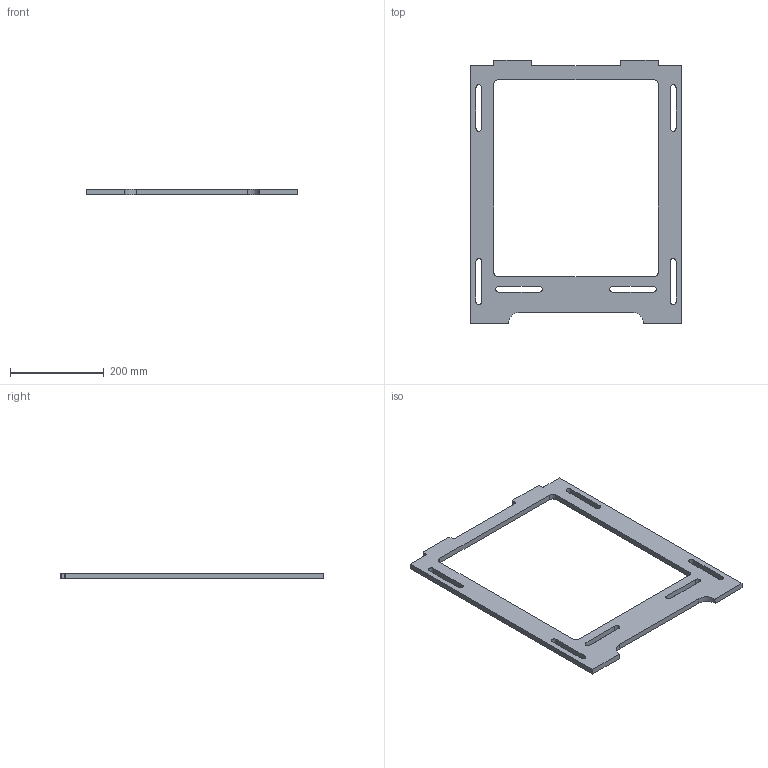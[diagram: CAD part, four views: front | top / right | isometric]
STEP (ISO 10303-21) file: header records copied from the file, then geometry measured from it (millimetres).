
FILE_DESCRIPTION(/* description */ (''),/* implementation_level */ '2;1');
FILE_NAME(/* name */ 'E:\panel2.stp',/* time_stamp */ '2015-03-19T21:39:50+08:00',/* author */ ('s41632'),/* organization */ (''),/* preprocessor_version */ 'ST-DEVELOPER v15.2',/* originating_system */ 'Autodesk Inventor 2014',/* authorisation */ '');
FILE_SCHEMA (('AUTOMOTIVE_DESIGN { 1 0 10303 214 3 1 1 }'));
Length unit declared in the file: millimetre
Products named in the file (1): panel2
Bounding box: 450 x 562 x 12 mm (x, y, z)
Volume: 1063066.5 mm3; surface area: 235509.6 mm2
Topology: 1 solids, 1 shells, 58 faces, 168 edges, 112 vertices
Faces by surface type: plane 36, cylinder 22
Entity records: 1968 total; most frequent: CARTESIAN_POINT 339, ORIENTED_EDGE 336, DIRECTION 330, EDGE_CURVE 168, LINE 124, VECTOR 124, VERTEX_POINT 112, AXIS2_PLACEMENT_3D 103
